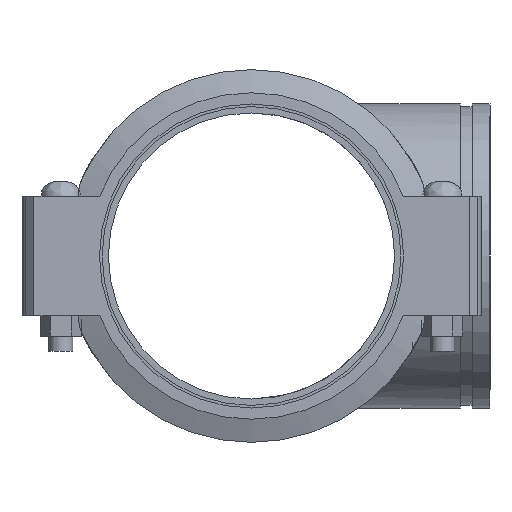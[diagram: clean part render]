
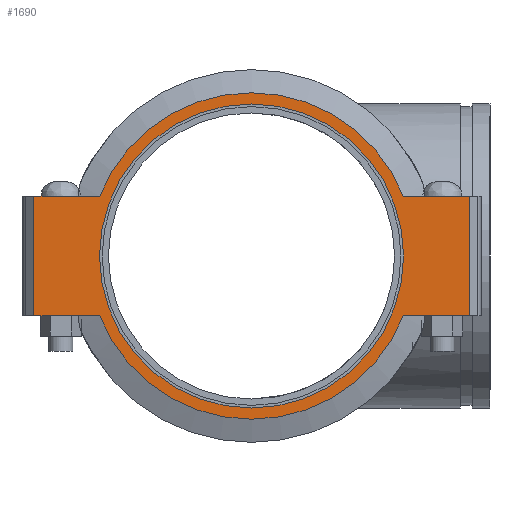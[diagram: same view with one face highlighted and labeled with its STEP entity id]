
A CAD part, left-side view. The second image highlights one B-rep face of the part: STEP entity #1690.
In plain terms, the highlighted planar face has unit normal (-1, 0, 0) as drawn and (0, 0, -1) by its records, which use the part's own axes.
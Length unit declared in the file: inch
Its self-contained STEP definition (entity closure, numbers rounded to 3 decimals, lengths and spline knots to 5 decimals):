
#96=FACE_BOUND('',#349,.T.);
#145=PLANE('',#1994);
#226=FACE_OUTER_BOUND('',#348,.T.);
#348=EDGE_LOOP('',(#1419,#1420,#1421,#1422,#1423,#1424,#1425,#1426));
#349=EDGE_LOOP('',(#1427));
#428=LINE('',#2928,#521);
#437=LINE('',#2955,#530);
#441=LINE('',#2977,#534);
#443=LINE('',#2981,#536);
#450=LINE('',#3007,#543);
#453=LINE('',#3025,#546);
#521=VECTOR('',#2396,0.3937);
#530=VECTOR('',#2421,0.3937);
#534=VECTOR('',#2435,0.3937);
#536=VECTOR('',#2439,0.3937);
#543=VECTOR('',#2458,0.3937);
#546=VECTOR('',#2471,0.3937);
#643=CIRCLE('',#1990,6.375);
#645=CIRCLE('',#1995,6.84375);
#646=CIRCLE('',#1996,6.84375);
#772=VERTEX_POINT('',#2923);
#773=VERTEX_POINT('',#2927);
#782=VERTEX_POINT('',#2952);
#783=VERTEX_POINT('',#2954);
#790=VERTEX_POINT('',#2976);
#791=VERTEX_POINT('',#2980);
#798=VERTEX_POINT('',#3005);
#799=VERTEX_POINT('',#3011);
#802=VERTEX_POINT('',#3021);
#970=EDGE_CURVE('',#773,#772,#428,.T.);
#983=EDGE_CURVE('',#783,#782,#437,.T.);
#992=EDGE_CURVE('',#773,#790,#441,.T.);
#994=EDGE_CURVE('',#791,#790,#443,.T.);
#1006=EDGE_CURVE('',#798,#782,#450,.T.);
#1008=EDGE_CURVE('',#799,#799,#643,.T.);
#1013=EDGE_CURVE('',#798,#802,#453,.T.);
#1017=EDGE_CURVE('',#772,#783,#645,.T.);
#1018=EDGE_CURVE('',#802,#791,#646,.T.);
#1419=ORIENTED_EDGE('',*,*,#992,.F.);
#1420=ORIENTED_EDGE('',*,*,#970,.T.);
#1421=ORIENTED_EDGE('',*,*,#1017,.T.);
#1422=ORIENTED_EDGE('',*,*,#983,.T.);
#1423=ORIENTED_EDGE('',*,*,#1006,.F.);
#1424=ORIENTED_EDGE('',*,*,#1013,.T.);
#1425=ORIENTED_EDGE('',*,*,#1018,.T.);
#1426=ORIENTED_EDGE('',*,*,#994,.T.);
#1427=ORIENTED_EDGE('',*,*,#1008,.T.);
#1690=ADVANCED_FACE('',(#226,#96),#145,.F.);
#1990=AXIS2_PLACEMENT_3D('',#3012,#2464,#2465);
#1994=AXIS2_PLACEMENT_3D('',#3067,#2474,#2475);
#1995=AXIS2_PLACEMENT_3D('',#3068,#2476,#2477);
#1996=AXIS2_PLACEMENT_3D('',#3069,#2478,#2479);
#2396=DIRECTION('',(-1.,0.,0.));
#2421=DIRECTION('',(-1.,0.,0.));
#2435=DIRECTION('',(0.,1.,0.));
#2439=DIRECTION('',(1.,0.,0.));
#2458=DIRECTION('',(0.,-1.,0.));
#2464=DIRECTION('center_axis',(0.,0.,1.));
#2465=DIRECTION('ref_axis',(1.,0.,0.));
#2471=DIRECTION('',(1.,0.,0.));
#2474=DIRECTION('center_axis',(0.,0.,1.));
#2475=DIRECTION('ref_axis',(-1.,0.,0.));
#2476=DIRECTION('center_axis',(0.,0.,-1.));
#2477=DIRECTION('ref_axis',(1.,0.,0.));
#2478=DIRECTION('center_axis',(0.,0.,-1.));
#2479=DIRECTION('ref_axis',(1.,0.,0.));
#2923=CARTESIAN_POINT('',(6.37079,-2.5,-1.315));
#2927=CARTESIAN_POINT('',(9.125,-2.5,-1.315));
#2928=CARTESIAN_POINT('',(-9.625,-2.5,-1.315));
#2952=CARTESIAN_POINT('',(-9.125,-2.5,-1.315));
#2954=CARTESIAN_POINT('',(-6.37079,-2.5,-1.315));
#2955=CARTESIAN_POINT('',(-9.625,-2.5,-1.315));
#2976=CARTESIAN_POINT('',(9.125,2.5,-1.315));
#2977=CARTESIAN_POINT('',(9.125,-1.25,-1.315));
#2980=CARTESIAN_POINT('',(6.37079,2.5,-1.315));
#2981=CARTESIAN_POINT('',(9.625,2.5,-1.315));
#3005=CARTESIAN_POINT('',(-9.125,2.5,-1.315));
#3007=CARTESIAN_POINT('',(-9.125,1.25,-1.315));
#3011=CARTESIAN_POINT('',(-6.375,0.,-1.315));
#3012=CARTESIAN_POINT('Origin',(0.,0.,-1.315));
#3021=CARTESIAN_POINT('',(-6.37079,2.5,-1.315));
#3025=CARTESIAN_POINT('',(9.625,2.5,-1.315));
#3067=CARTESIAN_POINT('Origin',(0.,0.,
-1.315));
#3068=CARTESIAN_POINT('Origin',(0.,0.,-1.315));
#3069=CARTESIAN_POINT('Origin',(0.,0.,-1.315));
